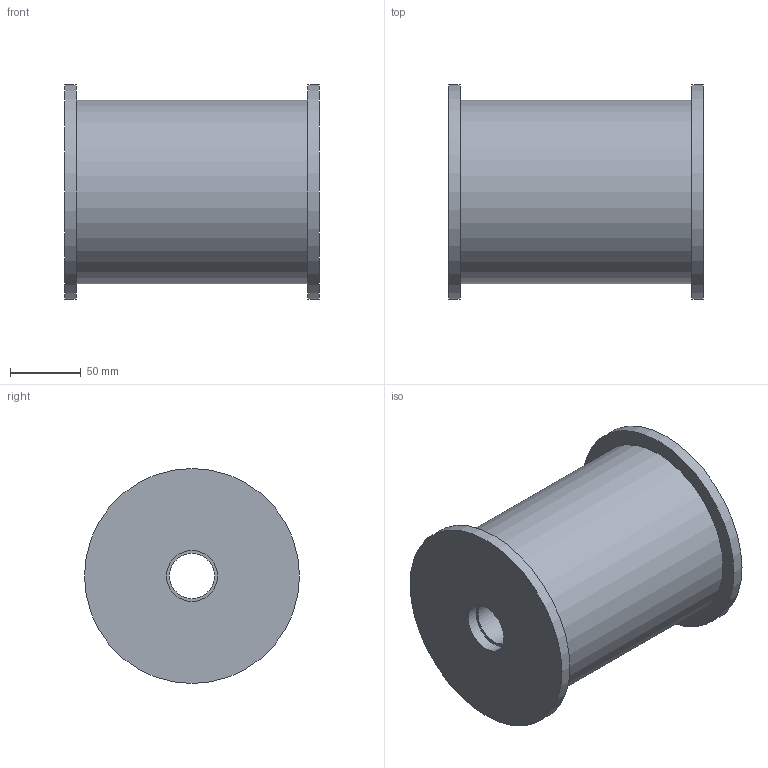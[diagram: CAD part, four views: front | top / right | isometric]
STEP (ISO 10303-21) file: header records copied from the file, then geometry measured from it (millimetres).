
FILE_DESCRIPTION(('Open CASCADE Model'),'2;1');
FILE_NAME('Open CASCADE Shape Model','2026-09-19T12:55:11',('Author'),( 'Open CASCADE'),'Open CASCADE STEP processor 7.9','Open CASCADE 7.9' ,'Unknown');
FILE_SCHEMA(('AUTOMOTIVE_DESIGN { 1 0 10303 214 1 1 1 1 }'));
Length unit declared in the file: millimetre
Products named in the file (4): Open CASCADE STEP translator 7.9 6; Open CASCADE STEP translator 7.9 6.1; Open CASCADE STEP translator 7.9 6.2; Open CASCADE STEP translator 7.9 6.3
Assembly tree (3 placements, depth 2):
  Open CASCADE STEP translator 7.9 6
    Open CASCADE STEP translator 7.9 6.1
    Open CASCADE STEP translator 7.9 6.2
    Open CASCADE STEP translator 7.9 6.3
Bounding box: 180 x 152 x 152 mm (x, y, z)
Volume: 2296743 mm3; surface area: 152650 mm2
Topology: 3 solids, 3 shells, 16 faces, 24 edges, 16 vertices
Faces by surface type: cylinder 8, plane 8
Full cylindrical faces by diameter (mm): 32 x2, 36 x3, 130 x1, 152 x2
Entity records: 748 total; most frequent: DIRECTION 128, CARTESIAN_POINT 108, ORIENTED_EDGE 48, PCURVE 48, DEFINITIONAL_REPRESENTATION 48, LINE 40, VECTOR 40, AXIS2_PLACEMENT_3D 36
